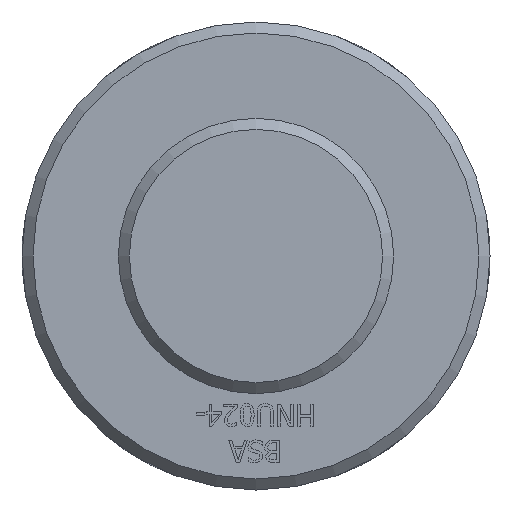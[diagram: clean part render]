
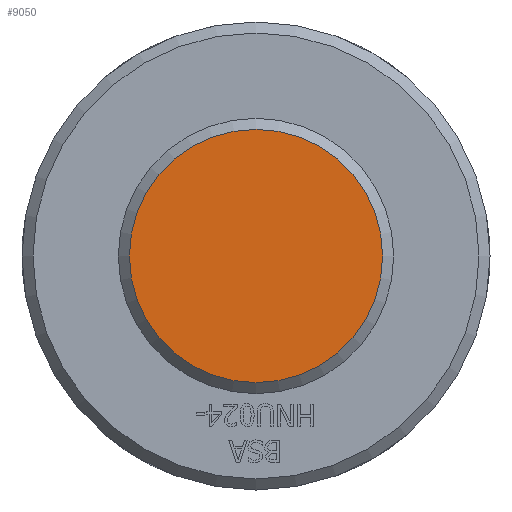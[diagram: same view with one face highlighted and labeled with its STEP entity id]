
A CAD part, front view. The second image highlights one B-rep face of the part: STEP entity #9050.
In plain terms, the highlighted planar face has unit normal (0, -1, 0) as drawn and (0, 1, 0) by its records, which use the part's own axes.
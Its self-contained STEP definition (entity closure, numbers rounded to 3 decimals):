
#62=CIRCLE('',#9555,23.);
#1066=FACE_OUTER_BOUND('',#1602,.T.);
#1602=EDGE_LOOP('',(#6811));
#3956=VERTEX_POINT('',#13180);
#5018=EDGE_CURVE('',#3956,#3956,#62,.T.);
#6811=ORIENTED_EDGE('',*,*,#5018,.F.);
#8718=PLANE('',#9558);
#9050=ADVANCED_FACE('',(#1066),#8718,.T.);
#9555=AXIS2_PLACEMENT_3D('',#13181,#10226,#10227);
#9558=AXIS2_PLACEMENT_3D('',#13185,#10232,#10233);
#10226=DIRECTION('center_axis',(0.,-1.,0.));
#10227=DIRECTION('ref_axis',(1.,0.,0.));
#10232=DIRECTION('center_axis',(0.,1.,0.));
#10233=DIRECTION('ref_axis',(0.,0.,1.));
#13180=CARTESIAN_POINT('',(-23.,250.,0.));
#13181=CARTESIAN_POINT('Origin',(0.,250.,0.));
#13185=CARTESIAN_POINT('Origin',(0.,250.,0.));
